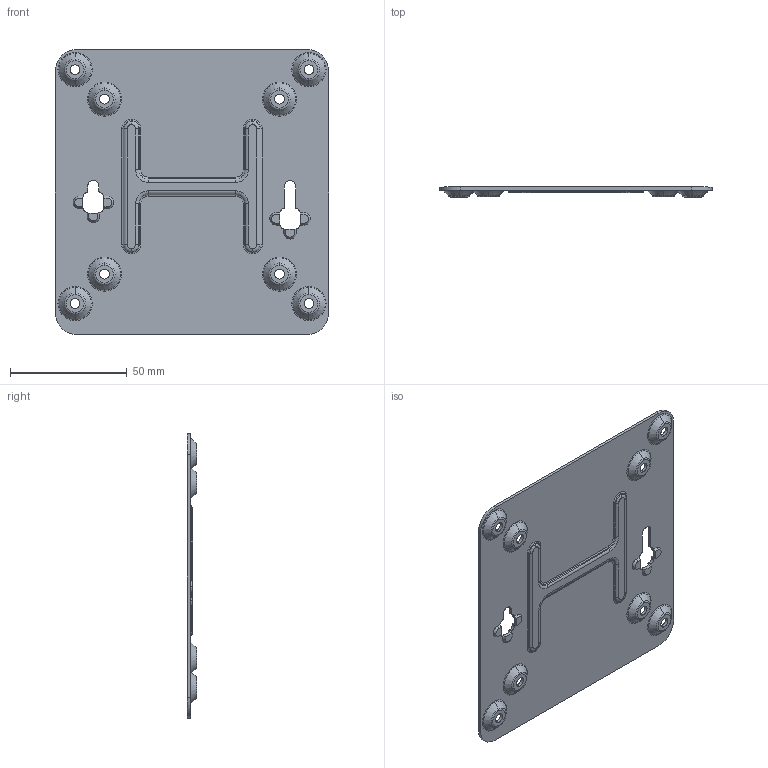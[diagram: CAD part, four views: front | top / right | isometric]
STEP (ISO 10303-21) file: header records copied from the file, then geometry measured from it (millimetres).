
FILE_DESCRIPTION (( 'STEP AP214' ), '1' );
FILE_NAME ('STEP_NUC_vesa_bracket.STEP', '2014-04-23T17:58:31', ( '' ), ( '' ), 'SwSTEP 2.0', 'SolidWorks 2013', '' );
FILE_SCHEMA (( 'AUTOMOTIVE_DESIGN' ));
Length unit declared in the file: millimetre
Products named in the file (1): STEP_NUC_vesa_bracket
Bounding box: 117 x 4.1 x 122 mm (x, y, z)
Volume: 18552.1 mm3; surface area: 29410.4 mm2
Topology: 1 solids, 1 shells, 334 faces, 830 edges, 516 vertices
Faces by surface type: plane 94, torus 84, cylinder 84, cone 72
Entity records: 10084 total; most frequent: DIRECTION 1916, CARTESIAN_POINT 1789, ORIENTED_EDGE 1660, EDGE_CURVE 830, AXIS2_PLACEMENT_3D 787, VERTEX_POINT 516, CIRCLE 452, EDGE_LOOP 372
